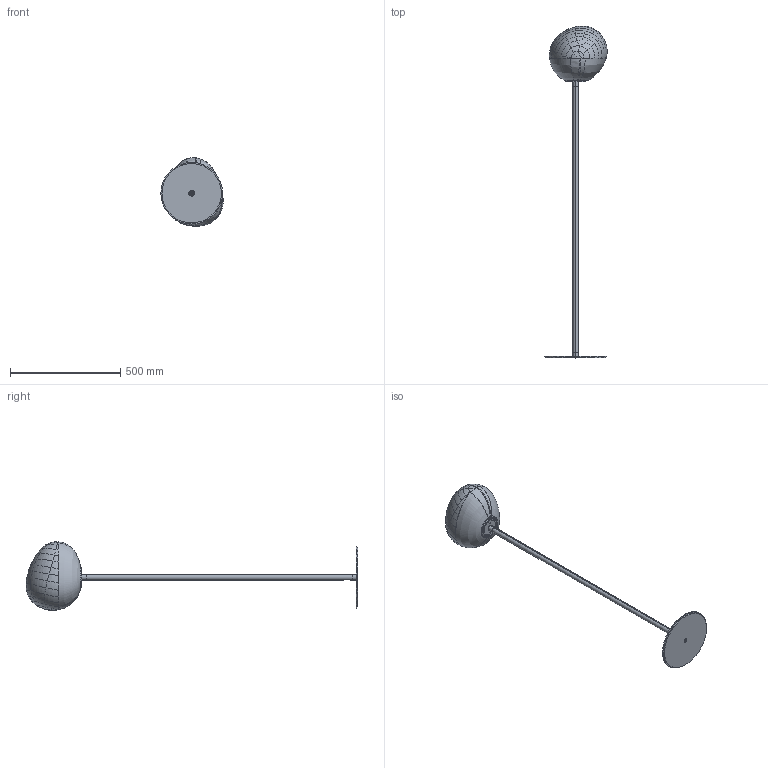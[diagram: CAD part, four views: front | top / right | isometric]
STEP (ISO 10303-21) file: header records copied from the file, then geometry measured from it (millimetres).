
FILE_DESCRIPTION (( 'STEP AP203' ), '1' );
FILE_NAME ('168_MEDIA-ALTA_F_ME_3D.STEP', '2021-03-31T15:18:04', ( '' ), ( '' ), 'SwSTEP 2.0', 'SolidWorks 2021', '' );
FILE_SCHEMA (( 'CONFIG_CONTROL_DESIGN' ));
Products named in the file (1): 168_MEDIA-ALTA_F_ME_3D
Bounding box: 283.02 x 1508.59 x 310.94 mm (x, y, z)
Volume: 1257386.8 mm3; surface area: 905297 mm2
Topology: 6 solids, 6 shells, 498 faces, 1212 edges, 720 vertices
Faces by surface type: bspline 254, cylinder 133, plane 61, torus 32, sphere 12, cone 6
Entity records: 286357 total; most frequent: CARTESIAN_POINT 276696, ORIENTED_EDGE 2400, DIRECTION 1313, EDGE_CURVE 1200, VERTEX_POINT 720, B_SPLINE_CURVE_WITH_KNOTS 596, AXIS2_PLACEMENT_3D 542, EDGE_LOOP 536
